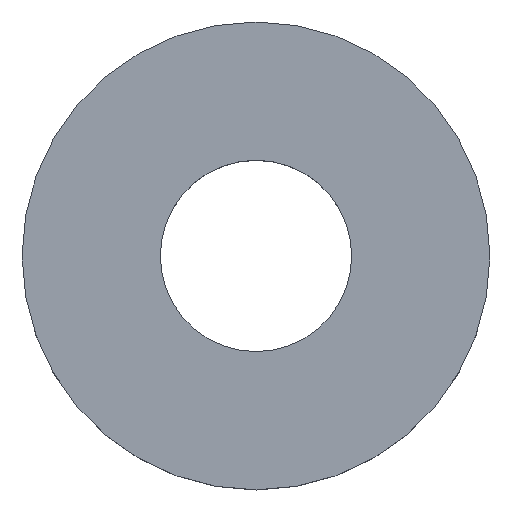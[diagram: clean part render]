
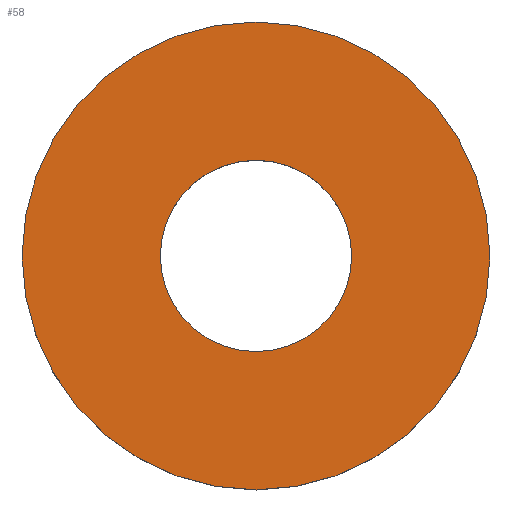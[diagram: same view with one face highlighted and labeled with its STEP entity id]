
A CAD part, top view. The second image highlights one B-rep face of the part: STEP entity #58.
In plain terms, the highlighted planar face has unit normal (0, 0, 1).
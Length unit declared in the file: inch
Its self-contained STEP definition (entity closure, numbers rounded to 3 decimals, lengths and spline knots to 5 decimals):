
#16=PLANE('',#68);
#20=FACE_BOUND('',#32,.T.);
#24=FACE_OUTER_BOUND('',#31,.T.);
#31=EDGE_LOOP('',(#51));
#32=EDGE_LOOP('',(#52));
#33=CIRCLE('',#62,0.28125);
#35=CIRCLE('',#65,0.6875);
#37=VERTEX_POINT('',#89);
#39=VERTEX_POINT('',#94);
#41=EDGE_CURVE('',#37,#37,#33,.T.);
#43=EDGE_CURVE('',#39,#39,#35,.T.);
#51=ORIENTED_EDGE('',*,*,#43,.T.);
#52=ORIENTED_EDGE('',*,*,#41,.T.);
#58=ADVANCED_FACE('',(#24,#20),#16,.T.);
#62=AXIS2_PLACEMENT_3D('',#90,#73,#74);
#65=AXIS2_PLACEMENT_3D('',#95,#79,#80);
#68=AXIS2_PLACEMENT_3D('',#99,#85,#86);
#73=DIRECTION('center_axis',(0.,0.,-1.));
#74=DIRECTION('ref_axis',(-1.,0.,0.));
#79=DIRECTION('center_axis',(0.,0.,1.));
#80=DIRECTION('ref_axis',(-1.,0.,0.));
#85=DIRECTION('center_axis',(0.,0.,1.));
#86=DIRECTION('ref_axis',(1.,0.,0.));
#89=CARTESIAN_POINT('',(0.28125,0.,0.25));
#90=CARTESIAN_POINT('Origin',(0.,0.,0.25));
#94=CARTESIAN_POINT('',(0.6875,0.,0.25));
#95=CARTESIAN_POINT('Origin',(0.,0.,0.25));
#99=CARTESIAN_POINT('Origin',(0.,0.,
0.25));
